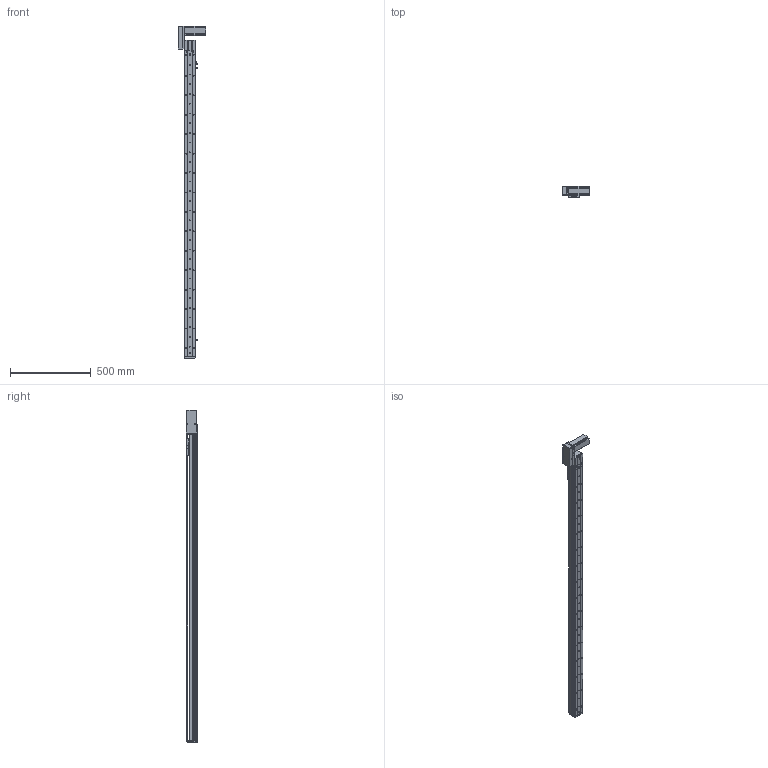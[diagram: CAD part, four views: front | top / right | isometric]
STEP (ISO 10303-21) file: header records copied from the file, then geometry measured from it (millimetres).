
FILE_DESCRIPTION (( 'STEP AP214' ), '1' );
FILE_NAME ('KSD68BS-S1700-MRB-CM.STEP', '2019-10-19T09:41:32', ( '微软用户' ), ( '微软中国' ), 'SwSTEP 2.0', 'SolidWorks 2014', '' );
FILE_SCHEMA (( 'AUTOMOTIVE_DESIGN' ));
Length unit declared in the file: millimetre
Products named in the file (11): 悵誘欶奻狟殏; 68宽马达安装板连板上折同步带; 68宽单导轨半封闭同步带主动轮座右; 68单导轨同步带半封闭端板; KSD68BS 1700俴最裔啣圉猾敕; 覜茼え68遵圉猾敕; KSD68BS半封闭同步带传动导轨座; U倰嫖萇EEㄜSX672; 台达ECMA－C20604AS伺服电机（400W); KSD68BS 1700俴最菁啣圉猾敕; KSD68BS-S1700-MRB-CM
Assembly tree (12 placements, depth 2):
  KSD68BS-S1700-MRB-CM
    KSD68BS 1700俴最菁啣圉猾敕
    台达ECMA－C20604AS伺服电机（400W)
    U倰嫖萇EEㄜSX672  x3
    KSD68BS半封闭同步带传动导轨座
    覜茼え68遵圉猾敕
    KSD68BS 1700俴最裔啣圉猾敕
    68单导轨同步带半封闭端板
    68宽单导轨半封闭同步带主动轮座右
    68宽马达安装板连板上折同步带
    悵誘欶奻狟殏
Bounding box: 167.2 x 70.5 x 2049.5 mm (x, y, z)
Volume: 3253949.1 mm3; surface area: 1214250.2 mm2
Topology: 13 solids, 13 shells, 1610 faces, 4722 edges, 3078 vertices
Faces by surface type: cylinder 852, plane 675, cone 83
Entity records: 63073 total; most frequent: CARTESIAN_POINT 12738, ORIENTED_EDGE 8196, DIRECTION 7916, EDGE_CURVE 4098, AXIS2_PLACEMENT_3D 2856, VERTEX_POINT 2702, VECTOR 2204, LINE 2204
